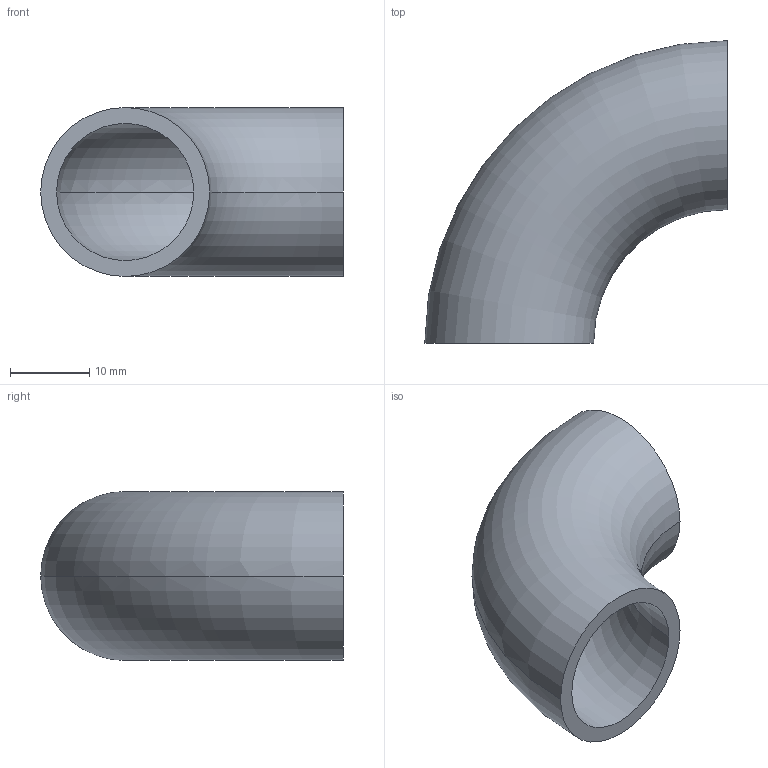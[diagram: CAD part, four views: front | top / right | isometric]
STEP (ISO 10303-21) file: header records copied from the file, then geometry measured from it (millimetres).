
FILE_DESCRIPTION (( 'STEP AP203' ), '1' );
FILE_NAME ('OT200-15-21_3x2_OSTP.step', '2020-12-16T02:09:43', ( '' ), ( '' ), 'SwSTEP 2.0', 'SolidWorks 2014', '' );
FILE_SCHEMA (( 'CONFIG_CONTROL_DESIGN' ));
Length unit declared in the file: millimetre
Products named in the file (1): OT200-15-21_3x2_OSTP
Bounding box: 38.15 x 38.15 x 21.3 mm (x, y, z)
Volume: 5238.3 mm3; surface area: 5480.8 mm2
Topology: 1 solids, 1 shells, 6 faces, 12 edges, 8 vertices
Faces by surface type: torus 4, plane 2
Entity records: 249 total; most frequent: DIRECTION 38, CARTESIAN_POINT 27, ORIENTED_EDGE 24, AXIS2_PLACEMENT_3D 19, EDGE_CURVE 12, CIRCLE 12, EDGE_LOOP 8, VERTEX_POINT 8
